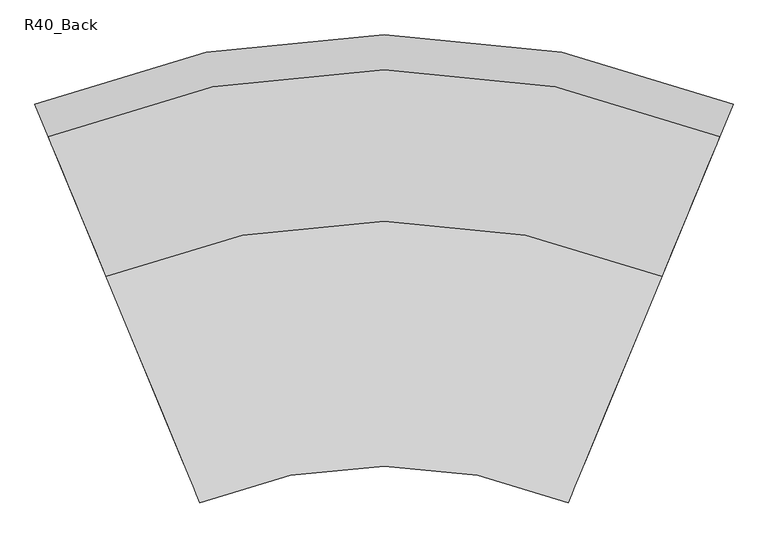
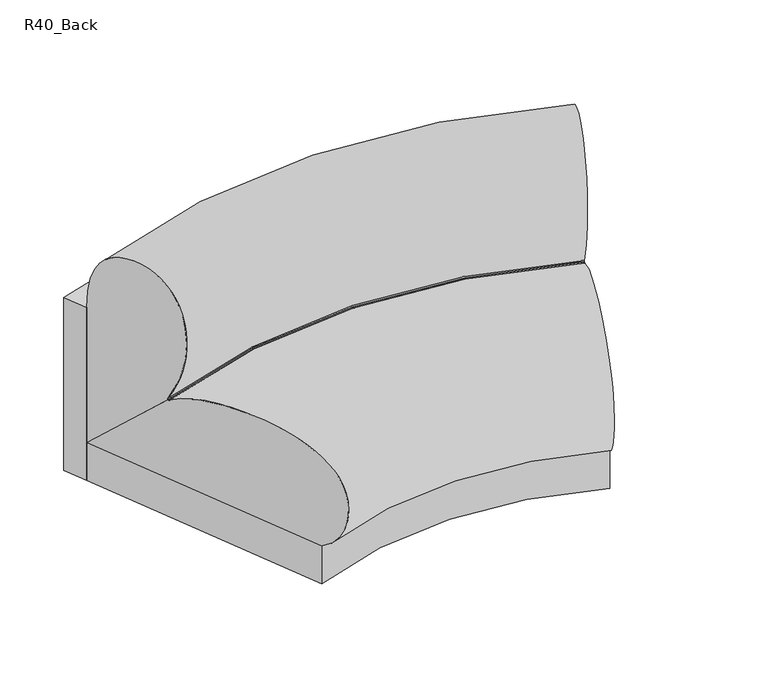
"""IFC4 building model written with IfcOpenShell, lengths in millimetres: furniture geometry, Memo_Candy_CurveInside_R40 : R40_Back."""

from ifc_helpers import new_model, si_unit, point, frame, frame_2d, origin, origin_with_axes, place, context, project, spatial, polyline, circle_curve, ellipse_curve, trimmed, segment, composite_curve, outline, extrude, source, transform, mapped, element, save
from ifc_brep_helpers import plane_surface, cylinder_surface, revolved_surface, spline_curve, advanced_brep


def r40_back_401833ee(model_context):
    return source(origin(), model_context, "Body", "SolidModel", [
        advanced_brep(
        [(-731.4419785, 254.5571445, 130.8862), (-628.9674702, 7.1617968, 382.770933), (-629.1154234, 7.5189875, 386.6180112), (-731.4419785, 254.5571445, 562.6862), (731.4419785, 254.5571445, 130.8862), (731.4419785, 254.5571445, 562.6862), (629.1154234, 7.5189875, 386.6180112), (628.9674702, 7.1617968, 382.770933)],
        [
            (0, 1),
            (1, 2, circle_curve(frame((-628.0824579, 5.0251882, 384.9463138), z_axis=(0.9238795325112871, 0.38268343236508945, 0.0), x_axis=(-0.38268343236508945, 0.9238795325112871, 0.0)), 3.175)),
            (2, 3, spline_curve(3, [(-629.1154234, 7.5189875, 386.6180112), (-616.613307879, -22.663789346, 439.369212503), (-609.589379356, -39.621052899, 487.129586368), (-602.93956843, -55.675116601, 603.825037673), (-606.819796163, -46.307418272, 674.263665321), (-634.747423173, 21.115837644, 768.908542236), (-660.286457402, 82.772520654, 789.248467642), (-708.619406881, 199.458582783, 756.110862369), (-731.4419785, 254.5571445, 709.516352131), (-731.4419785, 254.5571445, 562.6862)], [4, 2, 2, 2, 4], [0.0, 0.4185569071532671, 0.9855194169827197, 1.5950308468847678, 2.146168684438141])),
            (3, 0),
            (4, 5),
            (5, 6, spline_curve(3, [(731.4419785, 254.5571445, 562.6862), (731.4419785, 254.5571445, 709.516352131), (708.619406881, 199.458582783, 756.110862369), (660.286457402, 82.772520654, 789.248467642), (634.747423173, 21.115837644, 768.908542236), (606.819796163, -46.307418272, 674.263665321), (602.93956843, -55.675116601, 603.825037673), (609.589379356, -39.621052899, 487.129586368), (616.613307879, -22.663789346, 439.369212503), (629.1154234, 7.5189875, 386.6180112)], [4, 2, 2, 2, 4], [0.0, 0.5511378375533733, 1.1606492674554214, 1.727611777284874, 2.146168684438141])),
            (6, 7, circle_curve(frame((628.0824579, 5.0251882, 384.9463138), z_axis=(-0.9238795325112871, 0.38268343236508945, 0.0), x_axis=(0.38268343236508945, 0.9238795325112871, 0.0)), 3.175)),
            (7, 4),
            (7, 1, circle_curve(frame((0.0, -1511.3, 382.770933), z_axis=(0.0, 0.0, 1.0), x_axis=(-0.38268343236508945, 0.9238795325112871, 0.0)), 1643.5712053)),
            (0, 4, circle_curve(frame((0.0, -1511.3, 130.8862), z_axis=(0.0, 0.0, -1.0), x_axis=(-0.38268343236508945, 0.9238795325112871, 0.0)), 1911.35)),
            (6, 2, circle_curve(frame((0.0, -1511.3, 386.6180112), z_axis=(0.0, 0.0, 1.0), x_axis=(-0.38268343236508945, 0.9238795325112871, 0.0)), 1643.9578258)),
            (5, 3, circle_curve(frame((0.0, -1511.3, 562.6862), z_axis=(0.0, 0.0, 1.0), x_axis=(-0.38268343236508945, 0.9238795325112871, 0.0)), 1911.35)),
        ],
        [
            plane_surface(frame((0.0, -1511.3, -101.6), z_axis=(-0.923879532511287, -0.3826834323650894, 0.0), x_axis=(-0.3826834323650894, 0.923879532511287, 0.0))),
            plane_surface(frame((0.0, -1511.3, -101.6), z_axis=(0.923879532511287, -0.3826834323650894, 0.0), x_axis=(0.3826834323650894, 0.923879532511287, 0.0))),
            revolved_surface(polyline([(-628.9674702, 7.1617968, 382.770933), (-731.4419785, 254.5571445, 130.8862)]), (0.0, -1511.3, -101.6), (0.0, 0.0, 1.0)),
            revolved_surface(trimmed(ellipse_curve(frame((-628.0824579, 5.0251882, 384.9463138), z_axis=(-0.9238795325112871, -0.38268343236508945, 0.0), x_axis=(-0.38268343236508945, 0.9238795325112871, 0.0)), 3.175, 3.175), [point((-629.1154234, 7.5189875, 386.6180112))], [point((-628.9674702, 7.1617968, 382.770933))], True, "CARTESIAN"), (0.0, -1511.3, -101.6), (0.0, 0.0, 1.0)),
            revolved_surface(spline_curve(3, [(-731.4419785, 254.5571445, 562.6862), (-731.4419785, 254.5571445, 709.516352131), (-708.619406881, 199.458582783, 756.110862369), (-660.286457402, 82.772520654, 789.248467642), (-634.747423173, 21.115837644, 768.908542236), (-606.819796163, -46.307418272, 674.263665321), (-602.93956843, -55.675116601, 603.825037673), (-609.589379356, -39.621052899, 487.129586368), (-616.613307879, -22.663789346, 439.369212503), (-629.1154234, 7.5189875, 386.6180112)], [4, 2, 2, 2, 4], [0.0, 0.5511378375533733, 1.1606492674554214, 1.727611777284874, 2.146168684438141]), (0.0, -1511.3, -101.6), (0.0, 0.0, 1.0)),
            cylinder_surface(frame((0.0, -1511.3, -101.6), z_axis=(0.0, 0.0, 1.0), x_axis=(-0.38268343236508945, 0.9238795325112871, 0.0)), 1911.35),
        ],
        [
            (0, [[1, 2, 3, 4]]),
            (1, [[5, 6, 7, 8]]),
            (2, [[9, -1, 10, -8]]),
            (3, [[11, -2, -9, -7]]),
            (4, [[12, -3, -11, -6]]),
            (5, [[-10, -4, -12, -5]]),
        ],
    ),
        advanced_brep(
        [(-731.4419785, 254.5571445, 130.8862), (-434.9771234, -461.1723294, 130.8862), (-626.901641, 2.174444, 383.1727272), (-627.4163038, 3.4169498, 382.2910487), (-628.9674702, 7.1617968, 382.770933), (731.4419785, 254.5571445, 130.8862), (628.9674702, 7.1617968, 382.770933), (627.4163038, 3.4169498, 382.2910487), (626.901641, 2.174444, 383.1727272), (434.9771234, -461.1723294, 130.8862)],
        [
            (0, 1),
            (1, 2, spline_curve(3, [(-434.9771234, -461.1723294, 130.8862), (-407.685661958, -527.05974575, 170.417318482), (-399.983616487, -545.654128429, 240.606468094), (-402.32453207, -540.002658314, 357.685536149), (-417.575648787, -503.183205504, 393.569418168), (-457.445877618, -406.927958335, 443.81214514), (-483.082653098, -345.035307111, 454.422655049), (-553.600502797, -174.790157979, 449.084914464), (-596.174348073, -72.007803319, 435.812236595), (-626.901641, 2.174444, 383.1727272)], [4, 2, 2, 2, 4], [0.0, 0.4418974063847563, 1.0001856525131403, 1.637190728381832, 2.2072085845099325])),
            (2, 3),
            (3, 4, circle_curve(frame((-628.0824579, 5.0251882, 384.9463138), z_axis=(0.9238795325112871, 0.38268343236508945, 0.0), x_axis=(-0.38268343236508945, 0.9238795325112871, 0.0)), 3.175)),
            (4, 0),
            (5, 6),
            (6, 7, circle_curve(frame((628.0824579, 5.0251882, 384.9463138), z_axis=(-0.9238795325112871, 0.38268343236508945, 0.0), x_axis=(0.38268343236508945, 0.9238795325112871, 0.0)), 3.175)),
            (7, 8),
            (8, 9, spline_curve(3, [(626.901641, 2.174444, 383.1727272), (596.174348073, -72.007803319, 435.812236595), (553.600502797, -174.790157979, 449.084914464), (483.082653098, -345.035307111, 454.422655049), (457.445877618, -406.927958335, 443.81214514), (417.575648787, -503.183205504, 393.569418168), (402.32453207, -540.002658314, 357.685536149), (399.983616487, -545.654128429, 240.606468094), (407.685661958, -527.05974575, 170.417318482), (434.9771234, -461.1723294, 130.8862)], [4, 2, 2, 2, 4], [0.0, 0.5700178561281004, 1.2070229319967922, 1.7653111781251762, 2.2072085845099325])),
            (9, 5),
            (9, 1, circle_curve(frame((0.0, -1511.3, 130.8862), z_axis=(0.0, 0.0, 1.0), x_axis=(-0.38268343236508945, 0.9238795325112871, 0.0)), 1136.65)),
            (0, 5, circle_curve(frame((0.0, -1511.3, 130.8862), z_axis=(0.0, 0.0, -1.0), x_axis=(-0.38268343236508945, 0.9238795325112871, 0.0)), 1911.35)),
            (8, 2, circle_curve(frame((0.0, -1511.3, 383.1727272), z_axis=(0.0, 0.0, 1.0), x_axis=(-0.38268343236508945, 0.9238795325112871, 0.0)), 1638.1729335)),
            (7, 3, circle_curve(frame((0.0, -1511.3, 382.2910487), z_axis=(0.0, 0.0, 1.0), x_axis=(-0.38268343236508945, 0.9238795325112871, 0.0)), 1639.5178121)),
            (6, 4, circle_curve(frame((0.0, -1511.3, 382.770933), z_axis=(0.0, 0.0, 1.0), x_axis=(-0.38268343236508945, 0.9238795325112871, 0.0)), 1643.5712053)),
        ],
        [
            plane_surface(frame((0.0, -1511.3, -173.9138), z_axis=(-0.923879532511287, -0.3826834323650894, 0.0), x_axis=(-0.3826834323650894, 0.923879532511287, 0.0))),
            plane_surface(frame((0.0, -1511.3, -173.9138), z_axis=(0.923879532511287, -0.3826834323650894, 0.0), x_axis=(0.3826834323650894, 0.923879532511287, 0.0))),
            plane_surface(frame((0.0, -1511.3, 130.8862), z_axis=(0.0, 0.0, -1.0), x_axis=(-0.3826834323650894, 0.923879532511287, 0.0))),
            revolved_surface(spline_curve(3, [(-626.901641, 2.174444, 383.1727272), (-596.174348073, -72.007803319, 435.812236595), (-553.600502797, -174.790157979, 449.084914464), (-483.082653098, -345.035307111, 454.422655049), (-457.445877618, -406.927958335, 443.81214514), (-417.575648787, -503.183205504, 393.569418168), (-402.32453207, -540.002658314, 357.685536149), (-399.983616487, -545.654128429, 240.606468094), (-407.685661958, -527.05974575, 170.417318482), (-434.9771234, -461.1723294, 130.8862)], [4, 2, 2, 2, 4], [0.0, 0.5700178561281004, 1.2070229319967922, 1.7653111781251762, 2.2072085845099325]), (0.0, -1511.3, -173.9138), (0.0, 0.0, 1.0)),
            revolved_surface(polyline([(-627.4163038, 3.4169498, 382.2910487), (-626.901641, 2.174444, 383.1727272)]), (0.0, -1511.3, -173.9138), (0.0, 0.0, 1.0)),
            revolved_surface(trimmed(ellipse_curve(frame((-628.0824579, 5.0251882, 384.9463138), z_axis=(-0.9238795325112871, -0.38268343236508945, 0.0), x_axis=(-0.38268343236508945, 0.9238795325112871, 0.0)), 3.175, 3.175), [point((-628.9674702, 7.1617968, 382.770933))], [point((-627.4163038, 3.4169498, 382.2910487))], True, "CARTESIAN"), (0.0, -1511.3, -173.9138), (0.0, 0.0, 1.0)),
            revolved_surface(polyline([(-731.4419785, 254.5571445, 130.8862), (-628.9674702, 7.1617968, 382.770933)]), (0.0, -1511.3, -173.9138), (0.0, 0.0, 1.0)),
        ],
        [
            (0, [[1, 2, 3, 4, 5]]),
            (1, [[6, 7, 8, 9, 10]]),
            (2, [[11, -1, 12, -10]]),
            (3, [[13, -2, -11, -9]]),
            (4, [[14, -3, -13, -8]]),
            (5, [[15, -4, -14, -7]]),
            (6, [[-12, -5, -15, -6]]),
        ],
    ),
        extrude(outline(composite_curve([segment(trimmed(circle_curve(frame_2d((658.8659727, 228.6833139)), 14.2875), [point((644.5784727, 228.6833139))], [point((673.1534727, 228.6833139))], False, "CARTESIAN"), True, "CONTINUOUS"), segment(trimmed(circle_curve(frame_2d((658.8659727, 228.6833139)), 14.2875), [point((673.1534727, 228.6833139))], [point((644.5784727, 228.6833139))], False, "CARTESIAN"), True, "CONTINUOUS")], self_intersect=False)), origin_with_axes(), (0.0, 0.0, 1.0), 10.2362),
        extrude(outline(composite_curve([segment(trimmed(circle_curve(frame_2d((400.9566853, -393.9647854)), 14.2875), [point((386.6691853, -393.9647854))], [point((415.2441853, -393.9647854))], False, "CARTESIAN"), True, "CONTINUOUS"), segment(trimmed(circle_curve(frame_2d((400.9566853, -393.9647854)), 14.2875), [point((415.2441853, -393.9647854))], [point((386.6691853, -393.9647854))], False, "CARTESIAN"), True, "CONTINUOUS")], self_intersect=False)), origin_with_axes(), (0.0, 0.0, 1.0), 10.2362),
        extrude(outline(composite_curve([segment(trimmed(circle_curve(frame_2d((-658.8659727, 228.6833139)), 14.2875), [point((-644.5784727, 228.6833139))], [point((-673.1534727, 228.6833139))], False, "CARTESIAN"), True, "CONTINUOUS"), segment(trimmed(circle_curve(frame_2d((-658.8659727, 228.6833139)), 14.2875), [point((-673.1534727, 228.6833139))], [point((-644.5784727, 228.6833139))], False, "CARTESIAN"), True, "CONTINUOUS")], self_intersect=False)), origin_with_axes(), (0.0, 0.0, 1.0), 10.2362),
        extrude(outline(composite_curve([segment(trimmed(circle_curve(frame_2d((-400.9566853, -393.9647854)), 14.2875), [point((-386.6691853, -393.9647854))], [point((-415.2441853, -393.9647854))], False, "CARTESIAN"), True, "CONTINUOUS"), segment(trimmed(circle_curve(frame_2d((-400.9566853, -393.9647854)), 14.2875), [point((-415.2441853, -393.9647854))], [point((-386.6691853, -393.9647854))], False, "CARTESIAN"), True, "CONTINUOUS")], self_intersect=False)), origin_with_axes(), (0.0, 0.0, 1.0), 10.2362),
        extrude(outline(composite_curve([segment(trimmed(circle_curve(frame_2d((0.0, 349.25)), 14.2875), [point((14.2875, 349.25))], [point((-14.2875, 349.25))], False, "CARTESIAN"), True, "CONTINUOUS"), segment(trimmed(circle_curve(frame_2d((0.0, 349.25)), 14.2875), [point((-14.2875, 349.25))], [point((14.2875, 349.25))], False, "CARTESIAN"), True, "CONTINUOUS")], self_intersect=False)), origin_with_axes(), (0.0, 0.0, 1.0), 10.2362),
        extrude(outline(composite_curve([segment(trimmed(circle_curve(frame_2d((0.0, -1511.3)), 1911.35), [point((-731.4419785, 254.5571445))], [point((731.4419785, 254.5571445))], False, "CARTESIAN"), True, "CONTINUOUS"), segment(polyline([(731.4419785, 254.5571445), (434.9771234, -461.1723294)]), True, "CONTINUOUS"), segment(trimmed(circle_curve(frame_2d((0.0, -1511.3)), 1136.65), [point((434.9771234, -461.1723294))], [point((-434.9771234, -461.1723294))], True, "CARTESIAN"), True, "CONTINUOUS"), segment(polyline([(-434.9771234, -461.1723294), (-731.4419785, 254.5571445)]), True, "CONTINUOUS")], self_intersect=False)), frame((0.0, 0.0, 10.2362), z_axis=(0.0, 0.0, 1.0), x_axis=(1.0, 0.0, 0.0)), (0.0, 0.0, 1.0), 120.65),
        extrude(outline(composite_curve([segment(polyline([(-731.4419785, 254.5571445), (-760.602456, 324.9567648)]), True, "CONTINUOUS"), segment(trimmed(circle_curve(frame_2d((0.0, -1511.3)), 1987.55), [point((-760.602456, 324.9567648))], [point((760.602456, 324.9567648))], False, "CARTESIAN"), True, "CONTINUOUS"), segment(polyline([(760.602456, 324.9567648), (731.4419785, 254.5571445)]), True, "CONTINUOUS"), segment(trimmed(circle_curve(frame_2d((0.0, -1511.3)), 1911.35), [point((731.4419785, 254.5571445))], [point((-731.4419785, 254.5571445))], True, "CARTESIAN"), True, "CONTINUOUS")], self_intersect=False)), frame((0.0, 0.0, 10.2362), z_axis=(0.0, 0.0, 1.0), x_axis=(1.0, 0.0, 0.0)), (0.0, 0.0, 1.0), 552.45),
    ])


if __name__ == "__main__":
    model = new_model("IFC4")
    model_context = context("Model", 3, world=origin())
    ifc_project = project(units=[si_unit("LENGTHUNIT", "METRE", prefix="MILLI")], contexts=[model_context])
    site = spatial("IfcSite", under=ifc_project)
    building = spatial("IfcBuilding", under=site)
    placement = place(None, origin())
    r40_back_shape = r40_back_401833ee(model_context)
    element("IfcFurniture", 1, ObjectType="Memo_Candy_CurveInside_R40 : R40_Back", at=placement, inside=building, context=model_context, shape_type="MappedRepresentation", body=[
        mapped(r40_back_shape, transform((0.0, 0.0, 0.0), x_axis=(1.0, 0.0, 0.0), y_axis=(0.0, 1.0, 0.0), z_axis=(0.0, 0.0, 1.0))),
    ])
    save(model, "model.ifc")
